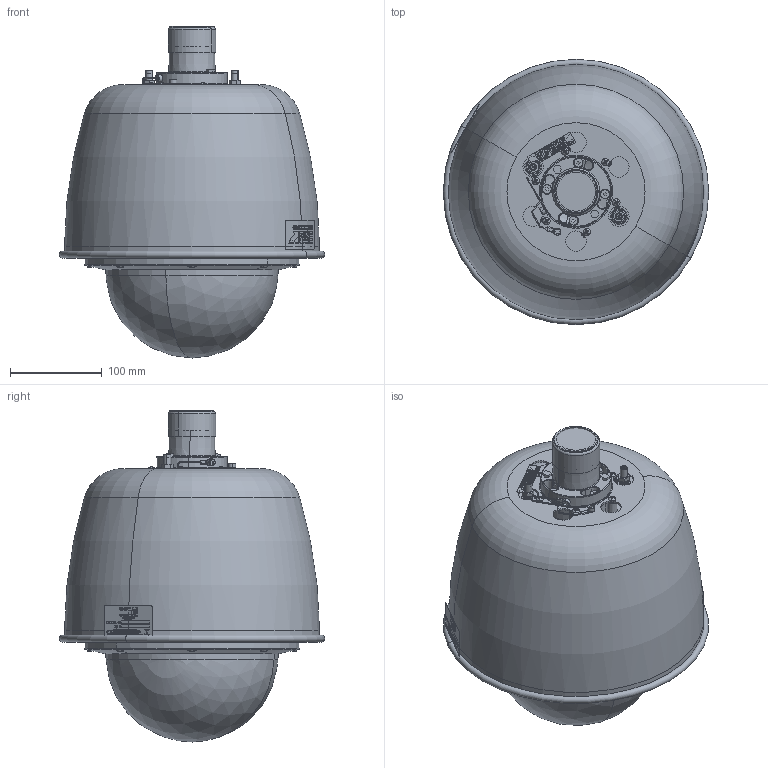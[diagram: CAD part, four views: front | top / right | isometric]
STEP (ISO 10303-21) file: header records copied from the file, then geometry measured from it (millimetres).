
FILE_DESCRIPTION (( 'STEP AP214' ), '1' );
FILE_NAME ('NEW 4220 SHELL.STEP', '2018-11-15T15:41:50', ( 'IT Department' ), ( 'Cohu, Inc.' ), 'SwSTEP 2.0', 'SolidWorks 2018', '' );
FILE_SCHEMA (( 'AUTOMOTIVE_DESIGN' ));
Length unit declared in the file: inch
Products named in the file (2): NEW 4220 SHELL
Bounding box: 289.56 x 289.56 x 362.33 mm (x, y, z)
Surface area: 598039.4 mm2 (no closed solid volume)
Topology: 0 solids, 179 shells, 776 faces, 8467 edges, 7823 vertices
Faces by surface type: plane 300, cone 162, cylinder 141, torus 123, bspline 36, sphere 14
Entity records: 123195 total; most frequent: CARTESIAN_POINT 60072, ORIENTED_EDGE 9560, EDGE_CURVE 8462, DIRECTION 8241, VERTEX_POINT 7823, VECTOR 4547, LINE 4547, B_SPLINE_CURVE_WITH_KNOTS 2664
